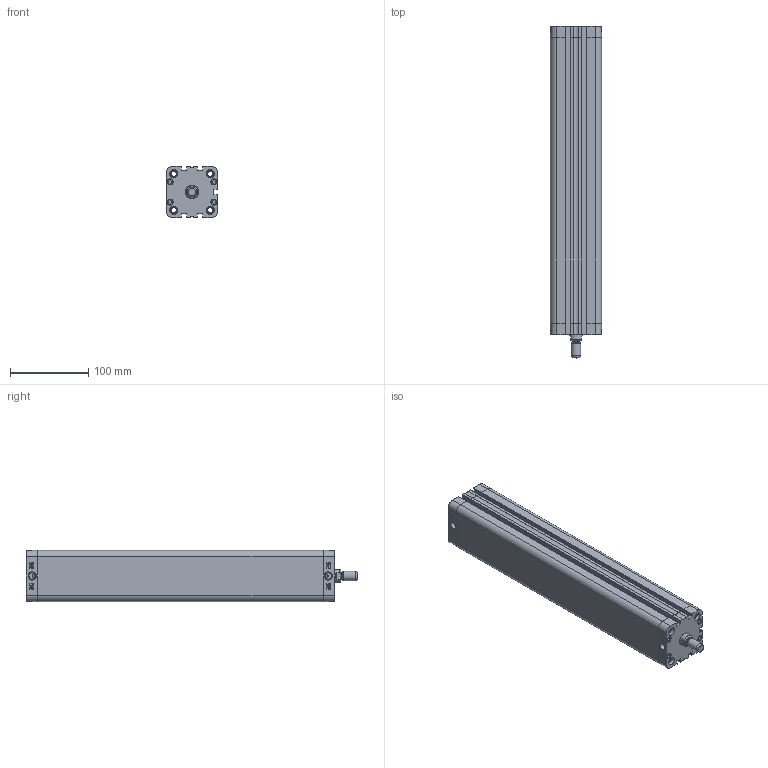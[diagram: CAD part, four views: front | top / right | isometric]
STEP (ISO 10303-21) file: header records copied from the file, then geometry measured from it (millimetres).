
FILE_DESCRIPTION((''),'2;1');
FILE_NAME('T:\Archivio Inventor\- CATALOGHI 2012\SERIE P - NUOVA\PDM\PDM050\PDM050.---.GS.M\PDM050.350.GS.M.stp','2013-02-01T12:23:27',('Administrator'),(''),'Autodesk Inventor 2012','Autodesk Inventor 2012','');
FILE_SCHEMA(('CONFIG_CONTROL_DESIGN'));
Length unit declared in the file: millimetre
Products named in the file (1): PDM050.350.GS.M
Bounding box: 65.5 x 425 x 65.5 mm (x, y, z)
Volume: 680970.9 mm3; surface area: 274687.7 mm2
Topology: 2 solids, 6 shells, 780 faces, 1860 edges, 1167 vertices
Faces by surface type: plane 335, bspline 196, cylinder 131, torus 56, cone 46, sphere 16
Full cylindrical faces by diameter (mm): 3.5 x2, 5.2 x4, 6.647 x8, 7.5 x8, 7.7 x8, 8.047 x4, 8.566 x2, 10 x1, 10.5 x8, 12 x2, 16 x1, 16.5 x1, 50 x1, 52.4 x1, 52.6 x1
Entity records: 25613 total; most frequent: CARTESIAN_POINT 8498, ORIENTED_EDGE 3488, DIRECTION 2866, EDGE_CURVE 1744, VERTEX_POINT 1148, AXIS2_PLACEMENT_3D 978, EDGE_LOOP 962, VECTOR 910
